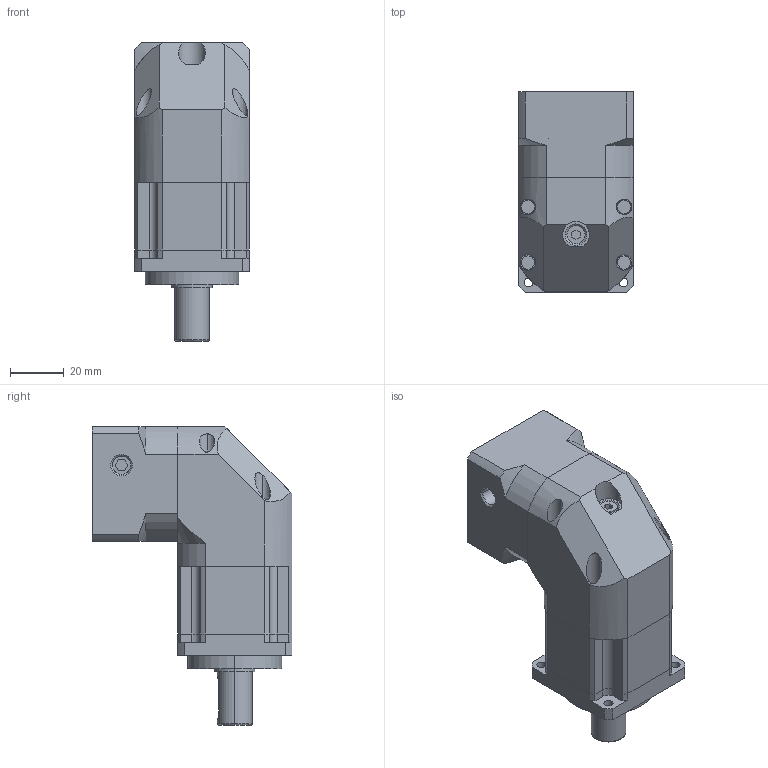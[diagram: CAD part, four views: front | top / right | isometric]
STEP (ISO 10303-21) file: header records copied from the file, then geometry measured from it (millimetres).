
FILE_DESCRIPTION (( 'STEP AP214' ), '1' );
FILE_NAME ('PFR-042-L2--S2 8-46-M4.STEP', '2021-09-28T05:25:20', ( 'Admin' ), ( '' ), 'SwSTEP 2.0', 'SolidWorks 2018', '' );
FILE_SCHEMA (( 'AUTOMOTIVE_DESIGN' ));
Length unit declared in the file: millimetre
Products named in the file (5): PFR-042-输入法兰-8-25-30-M4-46_1; PFR-0B42-蛌褒眊极_4; PFR-042-L2--S2 8-46-M4; PFR-042-L2-双级齿圈_1; PFR-042-怀堤傷-13-26-35-3.4-50_4
Assembly tree (4 placements, depth 2):
  PFR-042-L2--S2 8-46-M4
    PFR-042-怀堤傷-13-26-35-3.4-50_4
    PFR-0B42-蛌褒眊极_4
    PFR-042-输入法兰-8-25-30-M4-46_1
    PFR-042-L2-双级齿圈_1
Bounding box: 42.6 x 74.6 x 111.3 mm (x, y, z)
Volume: 148344.6 mm3; surface area: 44204.4 mm2
Topology: 4 solids, 4 shells, 368 faces, 895 edges, 578 vertices
Faces by surface type: cylinder 166, plane 159, cone 41, bspline 2
Entity records: 11409 total; most frequent: CARTESIAN_POINT 2371, DIRECTION 1927, ORIENTED_EDGE 1770, EDGE_CURVE 885, AXIS2_PLACEMENT_3D 720, VERTEX_POINT 578, LINE 487, VECTOR 487
